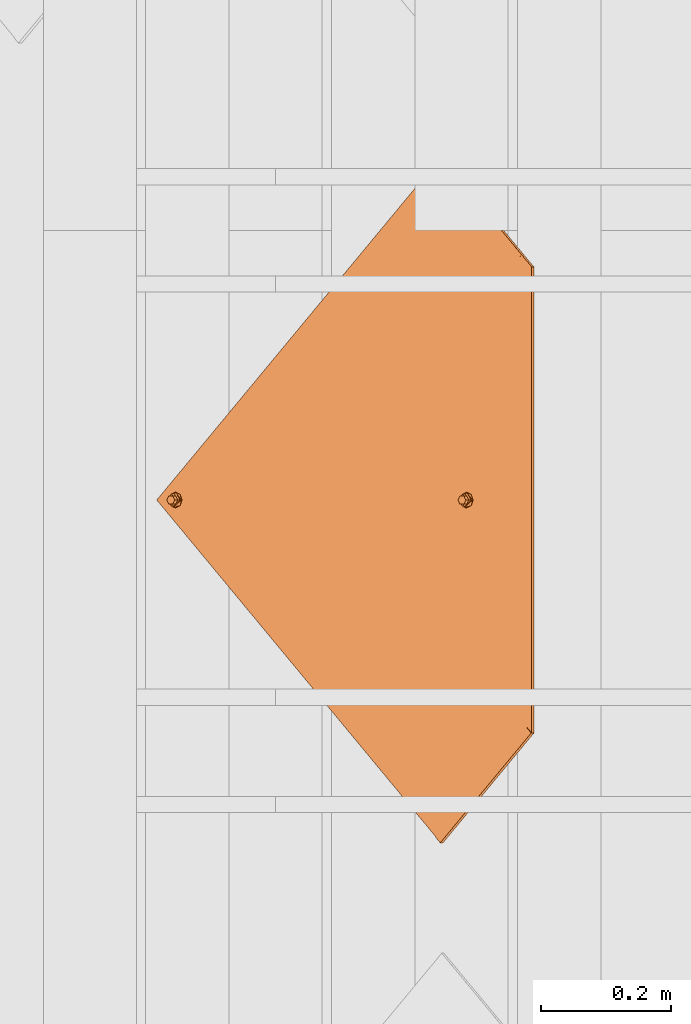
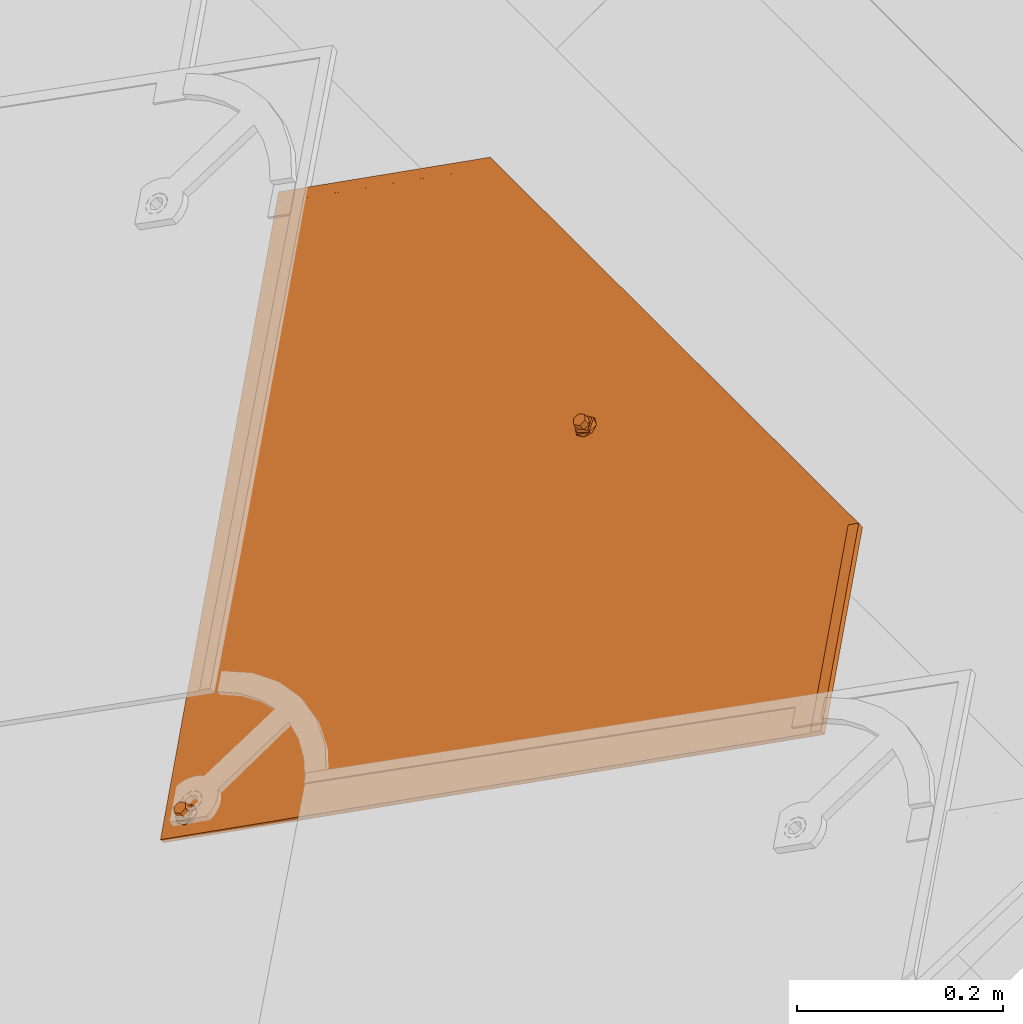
# One storey, part 70 of 151: 1 proxy.
"""IFC2X3 building model written with IfcOpenShell, lengths in millimetres."""

from ifc_helpers import new_model, entity, si_unit, converted_unit, derived_unit, direction, frame, origin, place, context, subcontext, project, spatial, faceted_brep, source, transform, mapped, material, material_list, type_object, type_shapes, element, save


model = new_model("IFC2X3")

# Units and contexts
model_context = context("Model", 3, precision=0.01, world=origin(), true_north=direction((6.12303176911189e-17, 1.0)))
body_context = subcontext(model_context, "Body", "Model", "MODEL_VIEW")
ifc_project = project(units=[si_unit("LENGTHUNIT", "METRE", prefix="MILLI"), si_unit("AREAUNIT", "SQUARE_METRE"), si_unit("VOLUMEUNIT", "CUBIC_METRE"), converted_unit("PLANEANGLEUNIT", "DEGREE", entity("IfcRatioMeasure", 0.0174532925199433), si_unit("PLANEANGLEUNIT", "RADIAN"), dimensions=[0, 0, 0, 0, 0, 0, 0]), si_unit("MASSUNIT", "GRAM", prefix="KILO"), derived_unit("MASSDENSITYUNIT", [(si_unit("MASSUNIT", "GRAM", prefix="KILO"), 1), (si_unit("LENGTHUNIT", "METRE"), -3)]), si_unit("TIMEUNIT", "SECOND"), si_unit("FREQUENCYUNIT", "HERTZ"), si_unit("THERMODYNAMICTEMPERATUREUNIT", "DEGREE_CELSIUS"), derived_unit("THERMALTRANSMITTANCEUNIT", [(si_unit("MASSUNIT", "GRAM", prefix="KILO"), 1), (si_unit("THERMODYNAMICTEMPERATUREUNIT", "KELVIN"), -1), (si_unit("TIMEUNIT", "SECOND"), -3)]), derived_unit("VOLUMETRICFLOWRATEUNIT", [(si_unit("LENGTHUNIT", "METRE"), 3), (si_unit("TIMEUNIT", "SECOND"), -1)]), si_unit("ELECTRICCURRENTUNIT", "AMPERE"), si_unit("ELECTRICVOLTAGEUNIT", "VOLT"), si_unit("POWERUNIT", "WATT"), si_unit("FORCEUNIT", "NEWTON", prefix="KILO"), si_unit("ILLUMINANCEUNIT", "LUX"), si_unit("LUMINOUSFLUXUNIT", "LUMEN"), si_unit("LUMINOUSINTENSITYUNIT", "CANDELA"), derived_unit("USERDEFINED", [(si_unit("MASSUNIT", "GRAM", prefix="KILO"), -1), (si_unit("LENGTHUNIT", "METRE"), -2), (si_unit("TIMEUNIT", "SECOND"), 3), (si_unit("LUMINOUSFLUXUNIT", "LUMEN"), 1)]), derived_unit("LINEARVELOCITYUNIT", [(si_unit("LENGTHUNIT", "METRE"), 1), (si_unit("TIMEUNIT", "SECOND"), -1)]), si_unit("PRESSUREUNIT", "PASCAL"), derived_unit("USERDEFINED", [(si_unit("LENGTHUNIT", "METRE"), -2), (si_unit("MASSUNIT", "GRAM", prefix="KILO"), 1), (si_unit("TIMEUNIT", "SECOND"), -2)])], contexts=[model_context])

# Site, building, storey
site_placement = place(None, origin())
site = spatial("IfcSite", under=ifc_project, at=site_placement, Name="Default", CompositionType="ELEMENT")
building_placement = place(site_placement, origin())
building = spatial("IfcBuilding", under=site, at=building_placement, CompositionType="ELEMENT")
storey_placement = place(building_placement, origin())
storey = spatial("IfcBuildingStorey", under=building, at=storey_placement, Name="Level 1", CompositionType="ELEMENT", Elevation=0.0)

# Proxy
ifc_material_1 = material(Name="Rubber - Sunstyle - Black")
ifc_material_2 = material(Name="Glass - Sunstyle - Tainted Black")
ifc_material_list_1 = material_list([ifc_material_1, ifc_material_2])
ifc_material_list_2 = material_list([ifc_material_1, ifc_material_2])
building_element_proxy_type = type_object("IfcBuildingElementProxyType", Name="Shingle Top - Black", PredefinedType="NOTDEFINED", material=ifc_material_list_2)
shared_shape = source(origin(), body_context, "Body", "Brep", [
    faceted_brep([(-518.396436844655, -96.9865733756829, 16.4476231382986), (-518.396436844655, -96.9614556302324, 17.9474128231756), (-526.881123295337, -88.4767691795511, 17.8053154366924), (-526.881123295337, -88.5018869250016, 16.3055257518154), (-376.996804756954, 61.3404039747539, 13.7960402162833), (-368.512118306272, 52.8557175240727, 13.9381376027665), (-376.996804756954, 61.3655217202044, 15.2958299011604), (-368.512118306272, 52.8808352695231, 15.4379272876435)], [[[0, 1, 2, 3]], [[0, 3, 4, 5]], [[3, 2, 6, 4]], [[2, 1, 7, 6]], [[1, 0, 5, 7]], [[5, 4, 6, 7]]]),
    faceted_brep([(0.166366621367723, -33.6374645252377, -4.47296585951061), (-5.6078362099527, -36.9707346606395, -4.4171418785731), (-5.60783620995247, -36.6024255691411, 17.5747274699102), (0.166366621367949, -33.2691554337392, 17.5189034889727), (-5.60783620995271, -43.6372749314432, -4.30549391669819), (-5.60783620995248, -43.2689658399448, 17.6863754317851), (0.166366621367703, -46.9705450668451, -4.24966993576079), (0.166366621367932, -46.6022359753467, 17.7421994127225), (5.94056945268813, -43.6372749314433, -4.30549391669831), (5.94056945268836, -43.2689658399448, 17.686375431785), (5.94056945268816, -36.9707346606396, -4.41714187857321), (5.94056945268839, -36.6024255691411, 17.5747274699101), (-8.43733754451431, -48.5381935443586, 17.774621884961), (0.16636662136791, -52.1014648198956, 17.8342978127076), (-12.0011084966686, -39.9356957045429, 17.6305514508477), (-8.43733754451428, -31.3331978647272, 17.4864810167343), (0.166366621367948, -27.7699265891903, 17.4268050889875), (8.77007078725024, -31.3331978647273, 17.4864810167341), (12.3338417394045, -39.935695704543, 17.6305514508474), (8.77007078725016, -48.5381935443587, 17.7746218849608), (-11.1578780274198, -37.6406185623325, 19.9433933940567), (-9.59010793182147, -39.8646808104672, 21.8708760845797), (0.166366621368, -32.5516055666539, 22.5035764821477), (0.166366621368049, -31.3111079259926, 21.9232298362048), (0.166366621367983, -29.1535570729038, 20.9138547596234), (0.166366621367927, -51.5454208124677, 19.1093557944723), (0.166366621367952, -50.6018442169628, 21.273060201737), (0.166366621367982, -47.1524685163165, 22.7481046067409), (0.166366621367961, -28.2829626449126, 18.7197675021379), (-6.15687907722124, -43.5022527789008, 22.6869725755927), (-6.15687907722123, -36.2018213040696, 22.5647085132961), (11.4906112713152, -42.1520387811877, 20.0189484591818), (10.0152467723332, -40.9390872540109, 21.7920079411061), (6.48961231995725, -36.2018213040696, 22.564708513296), (6.48961231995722, -43.5022527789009, 22.6869725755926), (-6.15687907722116, -43.3682243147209, 30.68986075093), (0.166366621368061, -47.0184400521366, 30.7509927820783), (0.166366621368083, -39.7180085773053, 30.6287287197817), (-6.15687907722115, -36.0677928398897, 30.5675966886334), (6.48961231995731, -43.368224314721, 30.6898607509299), (6.48961231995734, -36.0677928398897, 30.5675966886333), (0.166366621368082, -32.417577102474, 30.5064646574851), (0.166366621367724, -40.3040047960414, -4.36131789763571)], [[[0, 1, 2, 3]], [[1, 4, 5, 2]], [[4, 6, 7, 5]], [[6, 8, 9, 7]], [[8, 10, 11, 9]], [[10, 0, 3, 11]], [[12, 7, 13]], [[7, 12, 5]], [[14, 5, 12]], [[5, 14, 2]], [[15, 2, 14]], [[3, 2, 15]], [[15, 16, 3]], [[16, 17, 3]], [[11, 3, 17]], [[11, 17, 18]], [[9, 11, 18]], [[18, 19, 9]], [[7, 9, 19]], [[19, 13, 7]], [[20, 14, 12]], [[21, 22, 23, 24]], [[24, 20, 21]], [[25, 20, 12]], [[26, 27, 21]], [[15, 14, 20]], [[12, 13, 25]], [[20, 28, 15]], [[28, 20, 24]], [[21, 27, 29]], [[21, 29, 30]], [[26, 21, 20]], [[20, 25, 26]], [[15, 28, 16]], [[21, 30, 22]], [[31, 18, 17]], [[28, 31, 17]], [[32, 27, 26]], [[26, 31, 32]], [[26, 25, 31]], [[25, 19, 31]], [[17, 16, 28]], [[31, 19, 18]], [[24, 31, 28]], [[33, 34, 32]], [[23, 22, 33]], [[24, 32, 31]], [[27, 32, 34]], [[32, 23, 33]], [[19, 25, 13]], [[32, 24, 23]], [[35, 36, 37]], [[37, 38, 35]], [[36, 39, 37]], [[40, 37, 39]], [[37, 40, 41]], [[37, 41, 38]], [[42, 6, 4]], [[4, 1, 42]], [[1, 0, 42]], [[42, 8, 6]], [[0, 10, 42]], [[8, 42, 10]], [[22, 30, 38, 41]], [[30, 29, 35, 38]], [[29, 27, 36, 35]], [[27, 34, 39, 36]], [[34, 33, 40, 39]], [[33, 22, 41, 40]]]),
    faceted_brep([(0.0, -573.927138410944, 4.00636906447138), (-5.77420283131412, -577.260408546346, 4.0621930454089), (-5.77420283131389, -576.892099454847, 26.0540623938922), (0.0, -573.558829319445, 25.9982384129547), (-5.77420283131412, -583.926948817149, 4.1738410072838), (-5.7742028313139, -583.558639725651, 26.1657103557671), (0.0, -587.260218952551, 4.2296649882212), (0.0, -586.891909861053, 26.2215343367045), (5.77420283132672, -583.926948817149, 4.17384100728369), (5.77420283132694, -583.558639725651, 26.165710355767), (5.77420283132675, -577.260408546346, 4.06219304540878), (5.77420283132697, -576.892099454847, 26.0540623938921), (-8.60370416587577, -588.827867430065, 26.253956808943), (0.0, -592.391138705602, 26.3136327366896), (-12.1674751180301, -580.225369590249, 26.1098863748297), (-8.60370416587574, -571.622871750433, 25.9658159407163), (0.0, -568.059600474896, 25.9061400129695), (8.60370416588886, -571.622871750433, 25.9658159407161), (12.1674751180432, -580.225369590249, 26.1098863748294), (8.60370416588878, -588.827867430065, 26.2539568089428), (-11.3242446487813, -577.930292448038, 28.4227283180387), (-9.75647455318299, -580.154354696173, 30.3502110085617), (0.0, -572.84127945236, 30.9829114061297), (0.0, -571.600781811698, 30.4025647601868), (0.0, -569.44323095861, 29.3931896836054), (0.0, -591.835094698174, 27.5886907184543), (0.0, -590.891518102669, 29.752395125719), (0.0, -587.442142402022, 31.227439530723), (0.0, -568.572636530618, 27.1991024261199), (-6.32324569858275, -583.791926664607, 31.1663074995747), (-6.32324569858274, -576.491495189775, 31.0440434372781), (11.3242446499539, -582.441712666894, 28.4982833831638), (9.84888015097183, -581.228761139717, 30.2713428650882), (6.32324569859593, -576.491495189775, 31.044043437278), (6.32324569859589, -583.791926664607, 31.1663074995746), (-6.32324569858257, -583.657898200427, 39.169195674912), (0.0, -587.308113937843, 39.2303277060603), (0.0, -580.007682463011, 39.1080636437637), (-6.32324569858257, -576.357466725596, 39.0469316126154), (6.32324569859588, -583.657898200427, 39.1691956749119), (6.32324569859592, -576.357466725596, 39.0469316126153), (0.0, -572.70725098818, 38.9857995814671), (0.0, -580.593678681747, 4.11801702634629)], [[[0, 1, 2, 3]], [[1, 4, 5, 2]], [[4, 6, 7, 5]], [[6, 8, 9, 7]], [[8, 10, 11, 9]], [[10, 0, 3, 11]], [[12, 7, 13]], [[7, 12, 5]], [[14, 5, 12]], [[5, 14, 2]], [[15, 2, 14]], [[3, 2, 15]], [[15, 16, 3]], [[16, 17, 3]], [[11, 3, 17]], [[11, 17, 18]], [[9, 11, 18]], [[18, 19, 9]], [[7, 9, 19]], [[19, 13, 7]], [[20, 14, 12]], [[21, 22, 23, 24]], [[24, 20, 21]], [[25, 20, 12]], [[26, 27, 21]], [[15, 14, 20]], [[12, 13, 25]], [[20, 28, 15]], [[28, 20, 24]], [[21, 27, 29]], [[21, 29, 30]], [[26, 21, 20]], [[20, 25, 26]], [[15, 28, 16]], [[21, 30, 22]], [[31, 18, 17]], [[28, 31, 17]], [[32, 27, 26]], [[26, 31, 32]], [[26, 25, 31]], [[25, 19, 31]], [[17, 16, 28]], [[31, 19, 18]], [[24, 31, 28]], [[33, 34, 32]], [[23, 22, 33]], [[24, 32, 31]], [[27, 32, 34]], [[32, 23, 33]], [[19, 25, 13]], [[32, 24, 23]], [[35, 36, 37]], [[37, 38, 35]], [[36, 39, 37]], [[40, 37, 39]], [[37, 40, 41]], [[37, 41, 38]], [[42, 6, 4]], [[4, 1, 42]], [[1, 0, 42]], [[42, 8, 6]], [[0, 10, 42]], [[8, 42, 10]], [[22, 30, 38, 41]], [[30, 29, 35, 38]], [[29, 27, 36, 35]], [[27, 34, 39, 36]], [[34, 33, 40, 39]], [[33, 22, 41, 40]]]),
    faceted_brep([(518.482751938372, -96.8754983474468, 17.9260478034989), (526.967438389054, -88.3908118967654, 17.7839504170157), (526.967438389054, -88.3656941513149, 19.2837401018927), (518.482751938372, -96.8503806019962, 19.4258374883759), (349.749400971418, 71.8105397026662, 15.1009763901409), (358.234087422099, 80.2952261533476, 14.9588790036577), (358.234087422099, 80.3203438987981, 16.4586686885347), (349.749400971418, 71.8356574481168, 16.6007660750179)], [[[0, 1, 2, 3]], [[1, 0, 4, 5]], [[2, 1, 5, 6]], [[3, 2, 6, 7]], [[0, 3, 7, 4]], [[4, 7, 6, 5]]]),
    faceted_brep([(358.234087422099, 80.2952261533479, 14.9588790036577), (6.94661128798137, -35.8890860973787, 16.9046771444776), (7.74581466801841, -37.8182632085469, 16.9369860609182), (5.67526230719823, -34.2324641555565, 16.8769328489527), (8.01840805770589, -39.8885252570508, 16.9716577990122), (7.74581466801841, -41.9587873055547, 17.0063295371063), (6.94661128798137, -43.8879644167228, 17.0386384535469), (526.967438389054, -88.3908118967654, 17.7839504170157), (4.01840805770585, -32.9612934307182, 16.855643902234), (2.08896041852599, -32.1622021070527, 16.8422611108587), (0.0184080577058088, -31.8896469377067, 16.8376964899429), (-358.233442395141, 80.2952261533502, 14.9588790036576), (-2.05214430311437, -32.1622021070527, 16.8422611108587), (-3.98159194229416, -32.9612934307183, 16.855643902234), (-5.63844619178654, -34.2324641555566, 16.8769328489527), (-6.90979517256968, -35.8890860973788, 16.9046771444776), (-7.70899855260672, -37.8182632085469, 16.9369860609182), (-7.98159194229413, -39.8885252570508, 16.9716577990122), (-7.70899855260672, -41.9587873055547, 17.0063295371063), (-6.90979517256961, -43.8879644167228, 17.0386384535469), (-526.966793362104, -88.390811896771, 17.7839504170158), (-5.63844619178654, -45.544586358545, 17.0663827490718), (-5.6568542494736, -574.226981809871, 25.9204974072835), (-6.92820323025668, -575.883603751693, 25.9482417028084), (-7.72740661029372, -577.812780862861, 25.980550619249), (-8.0, -579.883042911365, 26.015222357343), (-7.72740661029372, -581.953304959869, 26.049894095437), (0.000322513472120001, -615.210165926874, 26.6068637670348), (7.72740661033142, -581.953304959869, 26.049894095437), (6.92820323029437, -583.882482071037, 26.0822030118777), (5.65685424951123, -585.53910401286, 26.1099473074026), (4.0, -586.810274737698, 26.1312362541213), (2.070552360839, -587.609366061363, 26.1446190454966), (0.0, -587.881921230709, 26.1491836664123), (-2.0705523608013, -587.609366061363, 26.1446190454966), (-4.0, -586.810274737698, 26.1312362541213), (-5.65685424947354, -585.53910401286, 26.1099473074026), (-6.92820323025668, -583.882482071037, 26.0822030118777), (-4.0, -572.955811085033, 25.8992084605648), (-3.98159194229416, -46.8157570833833, 17.0876716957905), (-2.07055236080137, -572.156719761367, 25.8858256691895), (-2.05214430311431, -47.614848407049, 17.1010544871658), (0.0, -571.884164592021, 25.8812610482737), (0.0184080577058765, -47.8874035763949, 17.1056191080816), (2.07055236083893, -572.156719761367, 25.8858256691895), (2.08896041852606, -47.6148484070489, 17.1010544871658), (4.0, -572.955811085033, 25.8992084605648), (4.01840805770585, -46.8157570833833, 17.0876716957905), (5.65685424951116, -574.226981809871, 25.9204974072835), (5.67526230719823, -45.544586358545, 17.0663827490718), (6.92820323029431, -575.883603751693, 25.9482417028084), (7.72740661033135, -577.812780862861, 25.980550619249), (8.0, -579.883042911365, 26.015222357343), (-358.233442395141, 80.1947551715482, 8.9597202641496), (-6.90979517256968, -35.9895570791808, 10.9055184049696), (-7.70899855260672, -37.9187341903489, 10.9378273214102), (-5.63844619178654, -34.3329351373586, 10.8777741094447), (-7.98159194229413, -39.9889962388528, 10.9724990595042), (-7.70899855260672, -42.0592582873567, 11.0071707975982), (-6.90979517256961, -43.9884353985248, 11.0394797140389), (-526.966793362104, -88.4912828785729, 11.7847916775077), (-3.98159194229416, -33.0617644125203, 10.856485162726), (-2.05214430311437, -32.2626730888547, 10.8431023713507), (0.0184080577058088, -31.9901179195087, 10.8385377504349), (358.234087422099, 80.1947551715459, 8.95972026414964), (2.08896041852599, -32.2626730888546, 10.8431023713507), (4.01840805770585, -33.0617644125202, 10.856485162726), (5.67526230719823, -34.3329351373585, 10.8777741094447), (6.94661128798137, -35.9895570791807, 10.9055184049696), (7.74581466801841, -37.9187341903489, 10.9378273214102), (8.01840805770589, -39.9889962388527, 10.9724990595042), (7.74581466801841, -42.0592582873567, 11.0071707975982), (6.94661128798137, -43.9884353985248, 11.0394797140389), (526.967438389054, -88.4912828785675, 11.7847916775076), (5.67526230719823, -45.645057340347, 11.0672240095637), (5.65685424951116, -574.327452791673, 19.9213386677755), (6.92820323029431, -575.984074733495, 19.9490829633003), (7.72740661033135, -577.913251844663, 19.981391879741), (8.0, -579.983513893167, 20.016063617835), (7.72740661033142, -582.053775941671, 20.050735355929), (0.000322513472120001, -615.310636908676, 20.6077050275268), (-7.72740661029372, -582.053775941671, 20.050735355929), (-6.92820323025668, -583.982953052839, 20.0830442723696), (-5.65685424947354, -585.639574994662, 20.1107885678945), (-4.0, -586.9107457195, 20.1320775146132), (-2.0705523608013, -587.709837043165, 20.1454603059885), (0.0, -587.982392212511, 20.1500249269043), (2.070552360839, -587.709837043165, 20.1454603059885), (4.0, -586.9107457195, 20.1320775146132), (5.65685424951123, -585.639574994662, 20.1107885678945), (6.92820323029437, -583.982953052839, 20.0830442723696), (4.01840805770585, -46.9162280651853, 11.0885129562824), (4.0, -573.056282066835, 19.9000497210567), (2.08896041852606, -47.7153193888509, 11.1018957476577), (2.07055236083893, -572.257190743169, 19.8866669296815), (0.0184080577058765, -47.9878745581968, 11.1064603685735), (0.0, -571.984635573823, 19.8821023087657), (-2.05214430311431, -47.7153193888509, 11.1018957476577), (-2.07055236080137, -572.257190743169, 19.8866669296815), (-3.98159194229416, -46.9162280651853, 11.0885129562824), (-4.0, -573.056282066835, 19.9000497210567), (-5.63844619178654, -45.645057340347, 11.0672240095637), (-5.6568542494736, -574.327452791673, 19.9213386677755), (-6.92820323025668, -575.984074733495, 19.9490829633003), (-7.72740661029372, -577.913251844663, 19.981391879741), (-8.0, -579.983513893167, 20.016063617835)], [[[0, 1, 2]], [[1, 0, 3]], [[0, 2, 4]], [[4, 5, 0]], [[5, 6, 0]], [[7, 0, 6]], [[8, 3, 0]], [[9, 8, 0]], [[10, 9, 0]], [[0, 11, 10]], [[12, 10, 11]], [[13, 12, 11]], [[14, 13, 11]], [[11, 15, 14]], [[15, 11, 16]], [[16, 11, 17]], [[11, 18, 17]], [[18, 11, 19]], [[11, 20, 19]], [[19, 20, 21]], [[20, 22, 21]], [[23, 22, 20]], [[24, 23, 20]], [[24, 20, 25]], [[26, 25, 20]], [[27, 26, 20]], [[7, 28, 27]], [[29, 27, 28]], [[27, 29, 30]], [[30, 31, 27]], [[31, 32, 27]], [[27, 32, 33]], [[27, 33, 34]], [[34, 35, 27]], [[27, 35, 36]], [[36, 37, 27]], [[37, 26, 27]], [[38, 21, 22]], [[38, 39, 21]], [[38, 40, 39]], [[40, 41, 39]], [[40, 42, 41]], [[41, 42, 43]], [[44, 43, 42]], [[44, 45, 43]], [[45, 44, 46]], [[46, 47, 45]], [[46, 48, 47]], [[48, 49, 47]], [[50, 7, 48]], [[48, 7, 49]], [[7, 50, 51]], [[7, 51, 52]], [[52, 28, 7]], [[7, 6, 49]], [[53, 54, 55]], [[54, 53, 56]], [[53, 55, 57]], [[58, 53, 57]], [[59, 53, 58]], [[60, 53, 59]], [[61, 56, 53]], [[62, 61, 53]], [[53, 63, 62]], [[63, 53, 64]], [[65, 63, 64]], [[66, 65, 64]], [[64, 67, 66]], [[67, 64, 68]], [[68, 64, 69]], [[70, 69, 64]], [[71, 70, 64]], [[72, 71, 64]], [[72, 64, 73]], [[72, 73, 74]], [[74, 73, 75]], [[73, 76, 75]], [[76, 73, 77]], [[77, 73, 78]], [[79, 78, 73]], [[79, 73, 80]], [[60, 81, 80]], [[80, 81, 82]], [[80, 82, 83]], [[83, 84, 80]], [[84, 85, 80]], [[85, 86, 80]], [[80, 86, 87]], [[80, 87, 88]], [[80, 88, 89]], [[79, 80, 90]], [[80, 89, 90]], [[75, 91, 74]], [[75, 92, 91]], [[92, 93, 91]], [[93, 92, 94]], [[93, 94, 95]], [[96, 95, 94]], [[97, 95, 96]], [[96, 98, 97]], [[98, 99, 97]], [[98, 100, 99]], [[100, 101, 99]], [[100, 102, 101]], [[60, 101, 102]], [[103, 60, 102]], [[103, 104, 60]], [[104, 105, 60]], [[105, 81, 60]], [[59, 101, 60]], [[27, 20, 60, 80]], [[7, 27, 80, 73]], [[0, 7, 73, 64]], [[25, 105, 104, 24]], [[24, 104, 103, 23]], [[38, 22, 102, 100]], [[102, 22, 23, 103]], [[40, 38, 100, 98]], [[40, 98, 96, 42]], [[42, 96, 94, 44]], [[44, 94, 92, 46]], [[50, 48, 75, 76]], [[75, 48, 46, 92]], [[51, 50, 76, 77]], [[51, 77, 78, 52]], [[52, 78, 79, 28]], [[28, 79, 90, 29]], [[31, 30, 89, 88]], [[29, 90, 89, 30]], [[87, 32, 31, 88]], [[32, 87, 86, 33]], [[34, 33, 86, 85]], [[34, 85, 84, 35]], [[37, 36, 83, 82]], [[35, 84, 83, 36]], [[37, 82, 81, 26]], [[26, 81, 105, 25]], [[17, 57, 55, 16]], [[16, 55, 54, 15]], [[13, 14, 56, 61]], [[56, 14, 15, 54]], [[12, 13, 61, 62]], [[12, 62, 63, 10]], [[10, 63, 65, 9]], [[9, 65, 66, 8]], [[1, 3, 67, 68]], [[67, 3, 8, 66]], [[2, 1, 68, 69]], [[2, 69, 70, 4]], [[4, 70, 71, 5]], [[5, 71, 72, 6]], [[47, 49, 74, 91]], [[74, 49, 6, 72]], [[45, 47, 91, 93]], [[45, 93, 95, 43]], [[43, 95, 97, 41]], [[41, 97, 99, 39]], [[19, 21, 101, 59]], [[101, 21, 39, 99]], [[18, 19, 59, 58]], [[18, 58, 57, 17]], [[11, 0, 64, 53]], [[20, 11, 53, 60]]]),
])
type_shapes(building_element_proxy_type, [shared_shape])
proxy_placement = place(storey_placement, frame((800.776532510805, 2641.08030937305, 2505.98000067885), z_axis=(-0.57357643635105, 0.0, 0.819152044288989), x_axis=(0.0, -1.0, 0.0)))
element("IfcBuildingElementProxy", 1, at=proxy_placement, inside=storey, type_object=building_element_proxy_type, material=ifc_material_list_1, Name="Roofing_Panels_SunStyle_Tile_Shingle-Top:Shingle Top - Black", ObjectType="Roofing_Panels_SunStyle_Tile_Shingle-Top:Shingle Top - Black", context=body_context, shape_type="MappedRepresentation", body=[
    mapped(shared_shape, transform((0.0, 0.0, 0.0), scale=1.0)),
])

save(model, "model.ifc")
